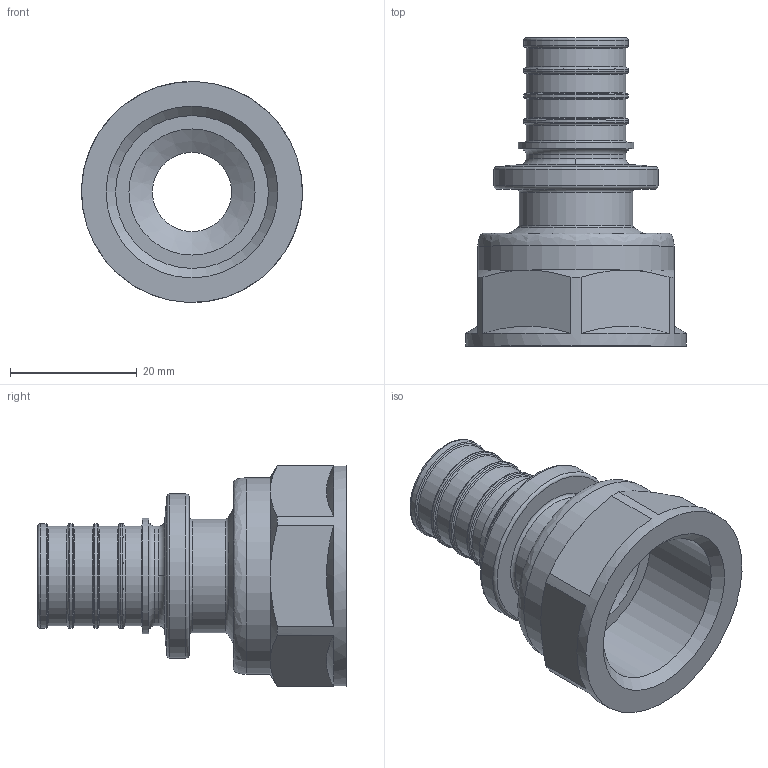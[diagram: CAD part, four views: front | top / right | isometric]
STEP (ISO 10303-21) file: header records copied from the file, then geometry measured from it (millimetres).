
FILE_DESCRIPTION(('STEP AP203'), '1');
FILE_NAME('ﾂﾐ.753124.005 - VTm.402.G.002005 ﾔ頸. 浯葢. G 3-4', '2024-01-23T13:15:36', ('IT'), ('VESTA'), 'C3D Converter', 'C3D Toolkit', '');
FILE_SCHEMA(('CONFIG_CONTROL_DESIGN'));
Length unit declared in the file: millimetre
Products named in the file (1): ВР.753124.005
Bounding box: 34.9 x 48.7 x 34.9 mm (x, y, z)
Volume: 11134.4 mm3; surface area: 8019.4 mm2
Topology: 1 solids, 1 shells, 70 faces, 147 edges, 84 vertices
Faces by surface type: torus 23, cone 17, cylinder 16, plane 13, bspline 1
Full cylindrical faces by diameter (mm): 12.5 x1, 15.7 x5, 16.5 x4, 17.9 x1, 18.2 x1, 24.118 x1, 25.9 x1, 31 x1, 34.9 x1
Entity records: 2303 total; most frequent: CARTESIAN_POINT 932, DIRECTION 300, ORIENTED_EDGE 208, AXIS2_PLACEMENT_3D 144, EDGE_LOOP 120, EDGE_CURVE 104, VERTEX_POINT 84, FACE_OUTER_BOUND 80
